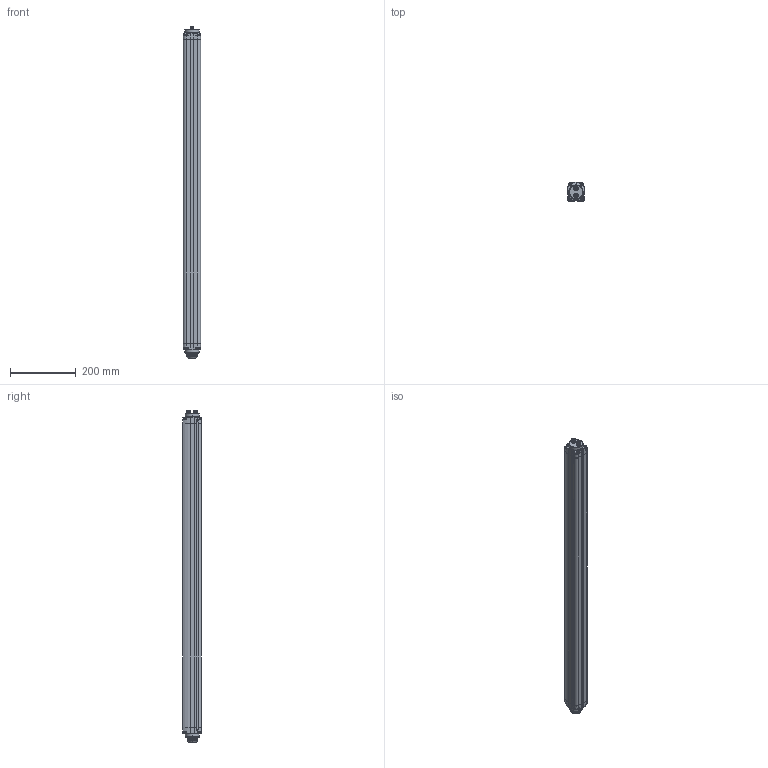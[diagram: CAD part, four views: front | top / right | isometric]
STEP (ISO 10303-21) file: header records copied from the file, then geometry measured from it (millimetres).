
FILE_DESCRIPTION(('STEP AP214'),'1');
FILE_NAME('SGBodyBigMuting_090_safetylightcurtains.stp','2017-11-09T11:09:49',('3D-Tool'),(' '),'Spatial InterOp 3D',' ',' ');
FILE_SCHEMA(('AUTOMOTIVE_DESIGN { 1 0 10303 214 1 1 1 1 }'));
Length unit declared in the file: millimetre
Products named in the file (1): 1
Bounding box: 52 x 56.93 x 1006.4 mm (x, y, z)
Surface area: 254092.6 mm2 (no closed solid volume)
Topology: 0 solids, 1160 shells, 1160 faces, 6302 edges, 6274 vertices
Faces by surface type: bspline 1160
Entity records: 147085 total; most frequent: CARTESIAN_POINT 79627, ORIENTED_EDGE 6274, EDGE_CURVE 6274, VERTEX_POINT 6274, DIRECTION 4754, PRESENTATION_STYLE_ASSIGNMENT 4448, COLOUR_RGB 4448, B_SPLINE_CURVE_WITH_KNOTS 3821
